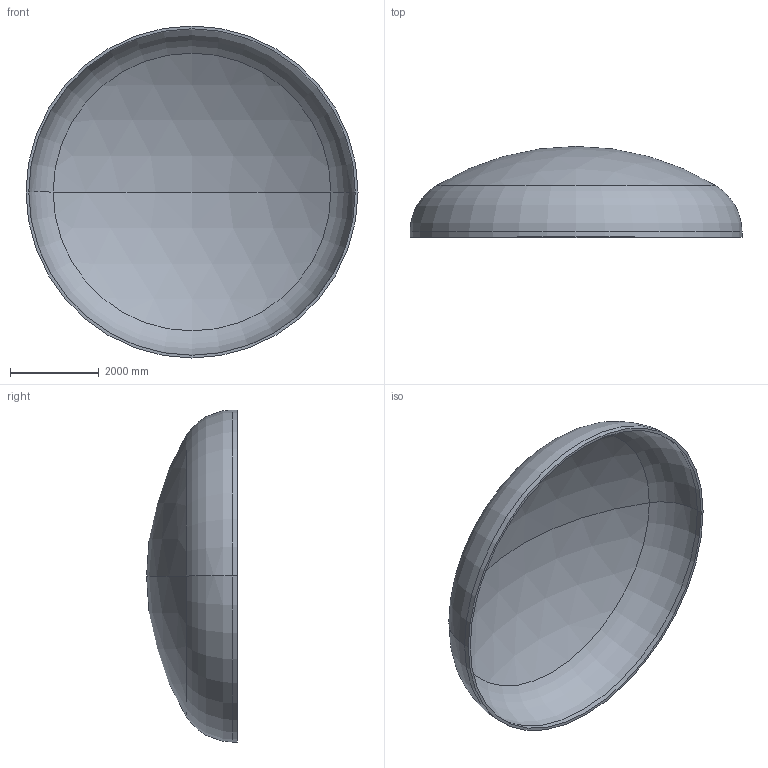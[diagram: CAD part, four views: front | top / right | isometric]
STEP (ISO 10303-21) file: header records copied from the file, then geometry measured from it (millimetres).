
FILE_DESCRIPTION (( 'STEP AP203' ), '1' );
FILE_NAME ('DIN 28013 Korbbogenform_-_Boden DIN 28013 - 7500 x 120 - I - s=62.step', '2016-07-04T10:55:12', ( '' ), ( '' ), 'SwSTEP 2.0', 'SolidWorks 2013', '' );
FILE_SCHEMA (( 'CONFIG_CONTROL_DESIGN' ));
Length unit declared in the file: millimetre
Products named in the file (1): DIN 28013 Korbbogenform_-_Boden DIN 28013 - 7500 x 120 - I - s=62
Bounding box: 7500 x 2051.87 x 7500 mm (x, y, z)
Volume: 3926206559.9 mm3; surface area: 128108590.4 mm2
Topology: 1 solids, 1 shells, 13 faces, 24 edges, 14 vertices
Faces by surface type: torus 4, cylinder 4, sphere 4, plane 1
Entity records: 407 total; most frequent: DIRECTION 72, CARTESIAN_POINT 52, ORIENTED_EDGE 48, AXIS2_PLACEMENT_3D 34, EDGE_CURVE 24, CIRCLE 20, VERTEX_POINT 14, EDGE_LOOP 14
